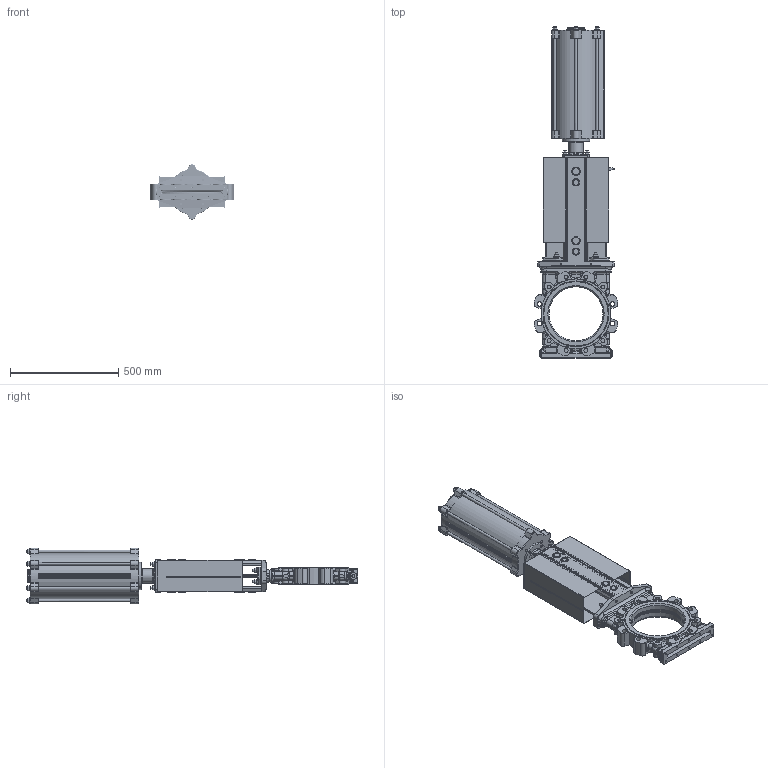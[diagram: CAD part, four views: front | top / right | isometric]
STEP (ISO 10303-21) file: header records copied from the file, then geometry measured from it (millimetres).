
FILE_DESCRIPTION(/* description */ (''),/* implementation_level */ '2;1');
FILE_NAME(/* name */ 'F:\Emir\3D-block special\SLV\SLV-DN250-PN10-FRSC200-320.stp',/* time_stamp */ '2018-09-03T11:04:01+02:00',/* author */ ('emimus'),/* organization */ (''),/* preprocessor_version */ 'ST-DEVELOPER v17',/* originating_system */ 'Autodesk Inventor 2018',/* authorisation */ '');
FILE_SCHEMA (('CONFIG_CONTROL_DESIGN'));
Products named in the file (1): SLV-DN250-PN10-FRSC200-320
Bounding box: 387.52 x 1532.5 x 256 mm (x, y, z)
Volume: 14347006.4 mm3; surface area: 3619243.7 mm2
Topology: 5 solids, 5 shells, 3295 faces, 8265 edges, 5130 vertices
Faces by surface type: plane 1101, cylinder 905, bspline 399, torus 376, cone 362, sphere 152
Full cylindrical faces by diameter (mm): 4 x2, 4.2 x16, 4.5 x8, 4.917 x24, 6 x4, 6.75 x10, 7.5 x4, 8 x12, 8.376 x4, 8.88 x5, 9.5 x2, 10 x9, 10.106 x2, 11 x4, 12 x38, 13 x22, 13.835 x4, 15 x8, 17.5 x16, 18 x2, 18.631 x2, 19 x4, 20.5 x1, 22 x4, 23 x4, 24 x19, 25 x2, 26.44 x2, 26.5 x2, 27 x1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
Entity records: 124186 total; most frequent: CARTESIAN_POINT 46070, DIRECTION 16951, ORIENTED_EDGE 16394, EDGE_CURVE 8197, AXIS2_PLACEMENT_3D 7119, VERTEX_POINT 5130, CIRCLE 3885, EDGE_LOOP 3637
